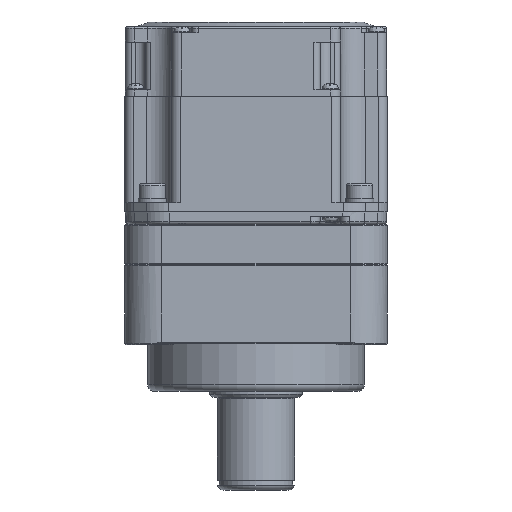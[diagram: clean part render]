
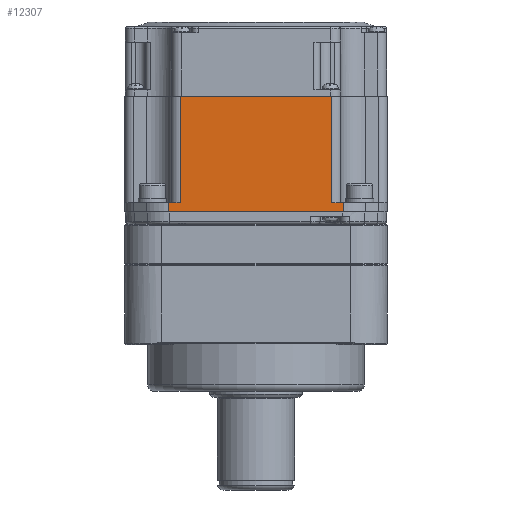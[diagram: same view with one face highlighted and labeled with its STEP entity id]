
A CAD part, front view. The second image highlights one B-rep face of the part: STEP entity #12307.
In plain terms, the highlighted planar face has unit normal (0, -1, 0).
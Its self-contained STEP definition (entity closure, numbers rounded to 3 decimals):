
#7012=FACE_OUTER_BOUND('',#16091,.T.);
#8621=LINE('',#50894,#10463);
#8652=LINE('',#51013,#10494);
#8666=LINE('',#51081,#10508);
#8667=LINE('',#51084,#10509);
#8668=LINE('',#51085,#10510);
#8669=LINE('',#51087,#10511);
#8670=LINE('',#51089,#10512);
#8671=LINE('',#51090,#10513);
#10463=VECTOR('',#41220,1.);
#10494=VECTOR('',#41309,1.);
#10508=VECTOR('',#41369,1.);
#10509=VECTOR('',#41370,1.);
#10510=VECTOR('',#41371,1.);
#10511=VECTOR('',#41372,1.);
#10512=VECTOR('',#41373,1.);
#10513=VECTOR('',#41374,1.);
#12307=ADVANCED_FACE('',(#7012),#14408,.F.);
#14408=PLANE('',#37330);
#16091=EDGE_LOOP('',(#18792,#18793,#18794,#18795,#18796,#18797,#18798,#18799));
#18792=ORIENTED_EDGE('',*,*,#30883,.T.);
#18793=ORIENTED_EDGE('',*,*,#30884,.T.);
#18794=ORIENTED_EDGE('',*,*,#30851,.T.);
#18795=ORIENTED_EDGE('',*,*,#30885,.T.);
#18796=ORIENTED_EDGE('',*,*,#30886,.F.);
#18797=ORIENTED_EDGE('',*,*,#30887,.T.);
#18798=ORIENTED_EDGE('',*,*,#30792,.F.);
#18799=ORIENTED_EDGE('',*,*,#30888,.T.);
#27811=VERTEX_POINT('',#50893);
#27812=VERTEX_POINT('',#50895);
#27870=VERTEX_POINT('',#51012);
#27871=VERTEX_POINT('',#51014);
#27902=VERTEX_POINT('',#51082);
#27903=VERTEX_POINT('',#51083);
#27904=VERTEX_POINT('',#51086);
#27905=VERTEX_POINT('',#51088);
#30792=EDGE_CURVE('',#27811,#27812,#8621,.T.);
#30851=EDGE_CURVE('',#27871,#27870,#8652,.T.);
#30883=EDGE_CURVE('',#27902,#27903,#8666,.T.);
#30884=EDGE_CURVE('',#27903,#27871,#8667,.T.);
#30885=EDGE_CURVE('',#27870,#27904,#8668,.T.);
#30886=EDGE_CURVE('',#27905,#27904,#8669,.T.);
#30887=EDGE_CURVE('',#27905,#27812,#8670,.T.);
#30888=EDGE_CURVE('',#27811,#27902,#8671,.T.);
#37330=AXIS2_PLACEMENT_3D('',#51091,#41375,#41376);
#41220=DIRECTION('',(1.,0.,0.));
#41309=DIRECTION('',(1.,0.,0.));
#41369=DIRECTION('',(-1.,0.,0.));
#41370=DIRECTION('',(0.,0.,-1.));
#41371=DIRECTION('',(0.,0.,1.));
#41372=DIRECTION('',(1.,0.,0.));
#41373=DIRECTION('',(0.,0.,1.));
#41374=DIRECTION('',(0.,0.,-1.));
#41375=DIRECTION('',(0.,1.,0.));
#41376=DIRECTION('',(0.,0.,1.));
#50893=CARTESIAN_POINT('',(-24.5,-124.75,10.));
#50894=CARTESIAN_POINT('',(-42.5,-124.75,10.));
#50895=CARTESIAN_POINT('',(24.5,-124.75,10.));
#51012=CARTESIAN_POINT('',(28.358,-124.75,-27.5));
#51013=CARTESIAN_POINT('',(-42.5,-124.75,-27.5));
#51014=CARTESIAN_POINT('',(-28.358,-124.75,-27.5));
#51081=CARTESIAN_POINT('',(-27.5,-124.75,-24.5));
#51082=CARTESIAN_POINT('',(-24.5,-124.75,-24.5));
#51083=CARTESIAN_POINT('',(-28.358,-124.75,-24.5));
#51084=CARTESIAN_POINT('',(-28.358,-124.75,-27.5));
#51085=CARTESIAN_POINT('',(28.358,-124.75,-24.5));
#51086=CARTESIAN_POINT('',(28.358,-124.75,-24.5));
#51087=CARTESIAN_POINT('',(27.5,-124.75,-24.5));
#51088=CARTESIAN_POINT('',(24.5,-124.75,-24.5));
#51089=CARTESIAN_POINT('',(24.5,-124.75,10.));
#51090=CARTESIAN_POINT('',(-24.5,-124.75,10.));
#51091=CARTESIAN_POINT('',(-42.5,-124.75,10.));
